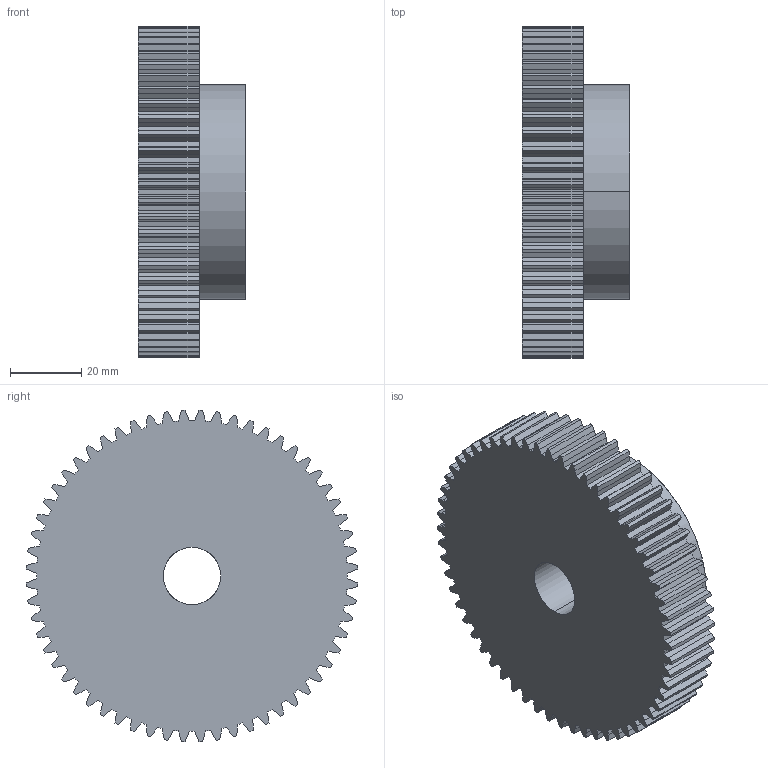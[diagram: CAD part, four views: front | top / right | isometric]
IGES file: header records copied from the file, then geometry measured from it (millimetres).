
Start section: SolidWorks IGES file using analytic representation for surfaces
Global section: file name: C:\Users\Honza\Desktop\Matis (Hotove)\Èelní ozubená kola\PM\MODUL 1,5\PM 27060.IGS; native system: SolidWorks 2010; preprocessor: SolidWorks 2010; author: Honza; date: 130924.140046; units: millimetre
Bounding box: 30 x 92.92 x 92.92 mm (x, y, z)
Surface area: 25268.9 mm2 (no closed solid volume)
Topology: 0 solids, 0 shells, 368 faces, 2374 edges, 2374 vertices
Faces by surface type: bspline 243, revolution 125
